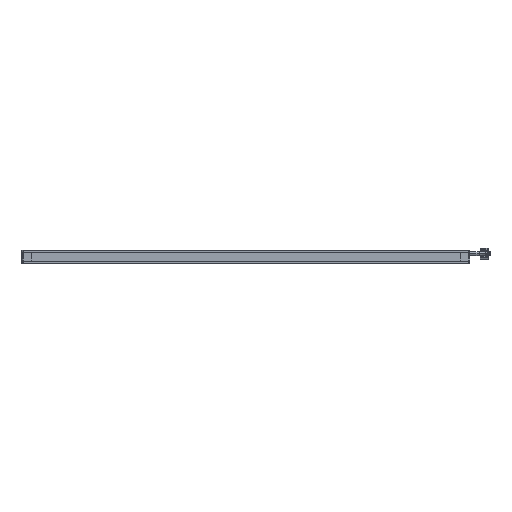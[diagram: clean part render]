
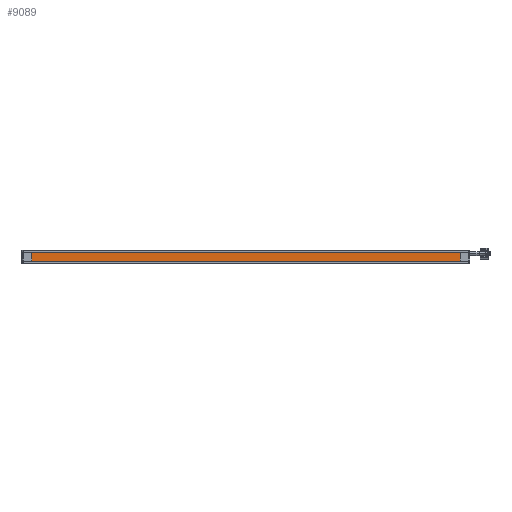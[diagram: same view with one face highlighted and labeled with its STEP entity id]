
A CAD part, front view. The second image highlights one B-rep face of the part: STEP entity #9089.
In plain terms, the highlighted planar face has unit normal (0, -1, 0).
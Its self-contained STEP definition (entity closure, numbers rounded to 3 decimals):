
#81 = LINE ( 'NONE', #7896, #1755 ) ;
#262 = DIRECTION ( 'NONE',  ( 0., 1., 0. ) ) ;
#347 = CARTESIAN_POINT ( 'NONE',  ( -205.7, -315., 0. ) ) ;
#920 = DIRECTION ( 'NONE',  ( 0., 0., -1. ) ) ;
#1116 = EDGE_LOOP ( 'NONE', ( #6444, #6541, #2819, #4765 ) ) ;
#1755 = VECTOR ( 'NONE', #9450, 1000. ) ;
#2017 = EDGE_CURVE ( 'NONE', #9475, #5949, #7559, .T. ) ;
#2081 = DIRECTION ( 'NONE',  ( 1., 0., 0. ) ) ;
#2533 = EDGE_CURVE ( 'NONE', #9475, #6035, #8964, .T. ) ;
#2819 = ORIENTED_EDGE ( 'NONE', *, *, #2017, .F. ) ;
#3915 = VECTOR ( 'NONE', #2081, 1000. ) ;
#3957 = EDGE_CURVE ( 'NONE', #5949, #4081, #81, .T. ) ;
#4081 = VERTEX_POINT ( 'NONE', #7300 ) ;
#4396 = EDGE_CURVE ( 'NONE', #6035, #4081, #6532, .T. ) ;
#4765 = ORIENTED_EDGE ( 'NONE', *, *, #2533, .T. ) ;
#4822 = CARTESIAN_POINT ( 'NONE',  ( 205.7, -315., -8.5 ) ) ;
#4827 = CARTESIAN_POINT ( 'NONE',  ( -205.7, -315., 0. ) ) ;
#5015 = DIRECTION ( 'NONE',  ( 0., 0., 1. ) ) ;
#5708 = FACE_OUTER_BOUND ( 'NONE', #1116, .T. ) ;
#5796 = AXIS2_PLACEMENT_3D ( 'NONE', #4827, #262, #920 ) ;
#5949 = VERTEX_POINT ( 'NONE', #9274 ) ;
#6035 = VERTEX_POINT ( 'NONE', #4822 ) ;
#6444 = ORIENTED_EDGE ( 'NONE', *, *, #4396, .T. ) ;
#6459 = CARTESIAN_POINT ( 'NONE',  ( 205.7, -315., 0. ) ) ;
#6532 = LINE ( 'NONE', #6459, #9157 ) ;
#6541 = ORIENTED_EDGE ( 'NONE', *, *, #3957, .F. ) ;
#6837 = VECTOR ( 'NONE', #8645, 1000. ) ;
#7300 = CARTESIAN_POINT ( 'NONE',  ( 205.7, -315., 0. ) ) ;
#7559 = LINE ( 'NONE', #347, #6837 ) ;
#7896 = CARTESIAN_POINT ( 'NONE',  ( -205.7, -315., 0. ) ) ;
#7900 = PLANE ( 'NONE',  #5796 ) ;
#8289 = CARTESIAN_POINT ( 'NONE',  ( -205.7, -315., -8.5 ) ) ;
#8645 = DIRECTION ( 'NONE',  ( 0., 0., 1. ) ) ;
#8964 = LINE ( 'NONE', #8289, #3915 ) ;
#9089 = ADVANCED_FACE ( 'NONE', ( #5708 ), #7900, .F. ) ;
#9157 = VECTOR ( 'NONE', #5015, 1000. ) ;
#9274 = CARTESIAN_POINT ( 'NONE',  ( -205.7, -315., 0. ) ) ;
#9279 = CARTESIAN_POINT ( 'NONE',  ( -205.7, -315., -8.5 ) ) ;
#9450 = DIRECTION ( 'NONE',  ( 1., 0., 0. ) ) ;
#9475 = VERTEX_POINT ( 'NONE', #9279 ) ;
